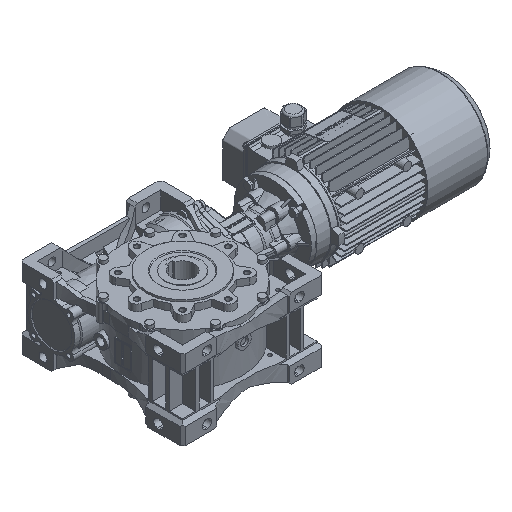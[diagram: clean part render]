
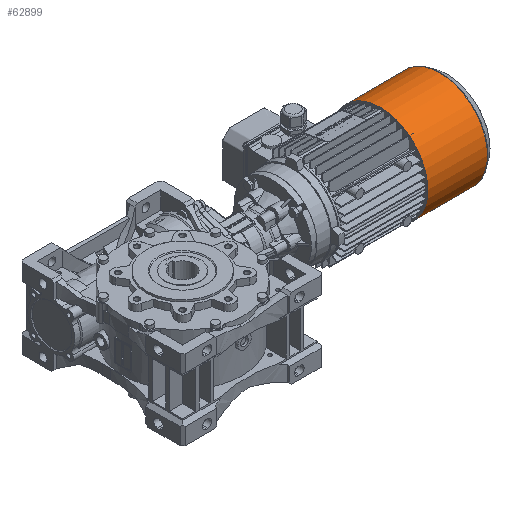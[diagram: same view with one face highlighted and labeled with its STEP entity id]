
A CAD part, isometric view. The second image highlights one B-rep face of the part: STEP entity #62899.
In plain terms, the highlighted cylindrical face has radius 86.45 mm (diameter 172.9 mm), a full revolution.
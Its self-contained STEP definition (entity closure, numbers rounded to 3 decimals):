
#1890=CIRCLE('',#88798,86.45);
#1891=CIRCLE('',#88800,86.45);
#4509=CYLINDRICAL_SURFACE('',#88799,86.45);
#23025=ORIENTED_EDGE('',*,*,#38664,.F.);
#23026=ORIENTED_EDGE('',*,*,#38663,.T.);
#38663=EDGE_CURVE('',#47067,#47067,#1890,.T.);
#38664=EDGE_CURVE('',#47068,#47068,#1891,.T.);
#47067=VERTEX_POINT('',#119826);
#47068=VERTEX_POINT('',#119829);
#53045=EDGE_LOOP('',(#23025));
#53046=EDGE_LOOP('',(#23026));
#57084=FACE_BOUND('',#53045,.T.);
#57085=FACE_BOUND('',#53046,.T.);
#62899=ADVANCED_FACE('',(#57084,#57085),#4509,.T.);
#88798=AXIS2_PLACEMENT_3D('',#119825,#100442,#100443);
#88799=AXIS2_PLACEMENT_3D('',#119827,#100444,#100445);
#88800=AXIS2_PLACEMENT_3D('',#119828,#100446,#100447);
#100442=DIRECTION('',(1.,0.,0.));
#100443=DIRECTION('',(0.,0.,-1.));
#100444=DIRECTION('',(1.,0.,0.));
#100445=DIRECTION('',(0.,0.,-1.));
#100446=DIRECTION('',(1.,0.,0.));
#100447=DIRECTION('',(0.,0.,-1.));
#119825=CARTESIAN_POINT('',(0.,0.,0.));
#119826=CARTESIAN_POINT('',(0.,0.,-86.45));
#119827=CARTESIAN_POINT('',(122.,0.,0.));
#119828=CARTESIAN_POINT('',(107.873,0.,0.));
#119829=CARTESIAN_POINT('',(107.873,0.,-86.45));
